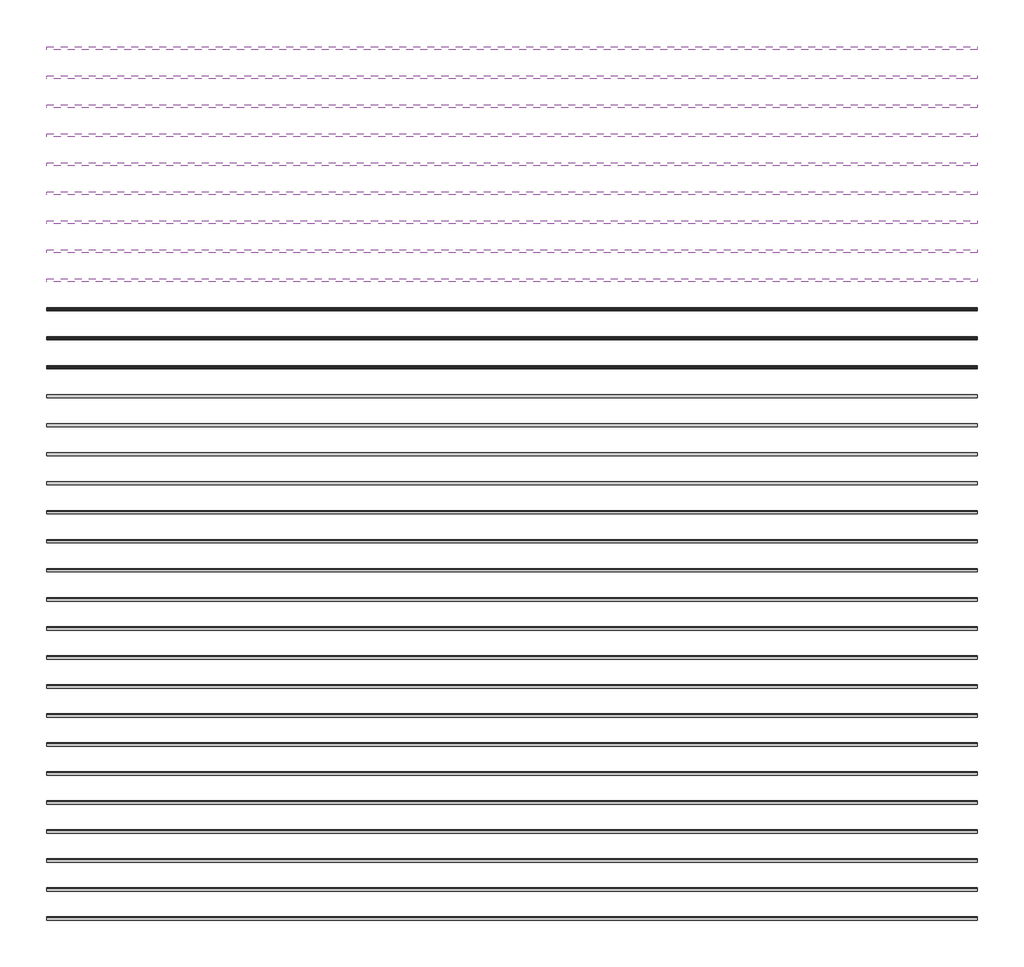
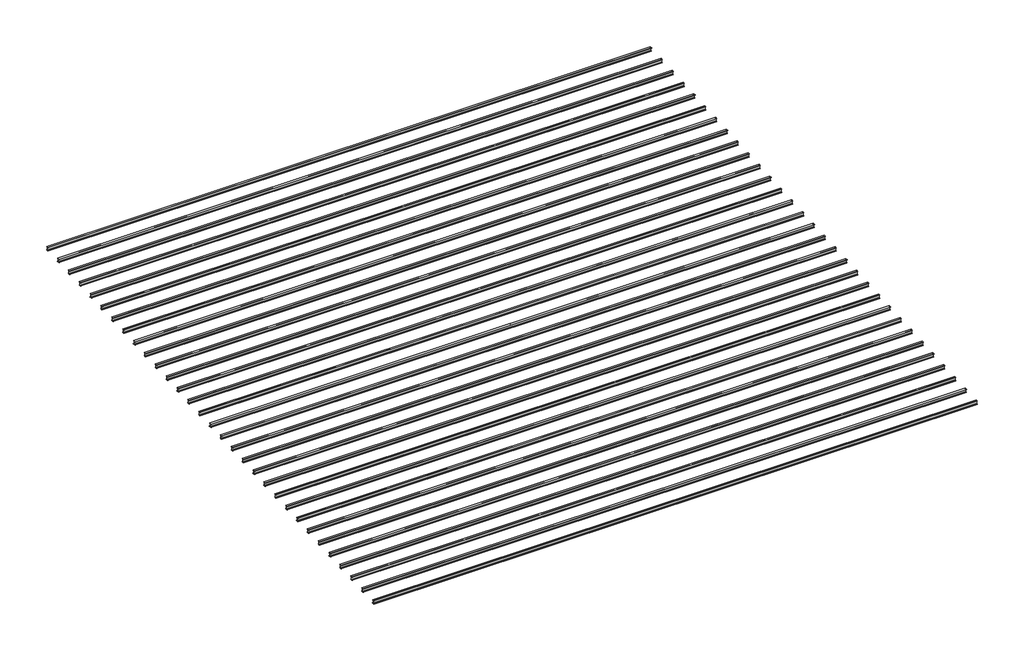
# One storey: 31 beams.
"""IFC4 building model written with IfcOpenShell, lengths in millimetres."""

from ifc_helpers import new_model, si_unit, origin, place, context, project, spatial, transform, mapped, element, save
from components import ipe120_4a8aa1c4

model = new_model("IFC4")

# Units and contexts
model_context = context("Model", 3, world=origin())
ifc_project = project(units=[si_unit("LENGTHUNIT", "METRE", prefix="MILLI")], contexts=[model_context])

# Site, building, storey
site = spatial("IfcSite", under=ifc_project)
building = spatial("IfcBuilding", under=site)
storey = spatial("IfcBuildingStorey", under=building, Name="Decke über 1.OG", Elevation=7500.0)

# Beams
placement = place(None, origin())
ipe120_shape = ipe120_4a8aa1c4(model_context)
element("IfcBeam", 1, ObjectType="IPE-Balken : IPE120", at=placement, inside=storey, context=model_context, shape_type="MappedRepresentation", body=[
    mapped(ipe120_shape, transform((258.1720523, 9586.331754, 9045.2702929), x_axis=(1.0, 0.0, 0.0), y_axis=(0.0, 0.9984603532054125, 0.05547001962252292), z_axis=(0.0, -0.05547001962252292, 0.9984603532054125))),
])
element("IfcBeam", 2, ObjectType="IPE-Balken : IPE120", at=placement, inside=storey, context=model_context, shape_type="MappedRepresentation", body=[
    mapped(ipe120_shape, transform((258.1720523, 8962.2940332, 9010.6015306), x_axis=(1.0, 0.0, 0.0), y_axis=(0.0, 0.9984603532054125, 0.05547001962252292), z_axis=(0.0, -0.05547001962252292, 0.9984603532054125))),
])
element("IfcBeam", 3, ObjectType="IPE-Balken : IPE120", at=placement, inside=storey, context=model_context, shape_type="MappedRepresentation", body=[
    mapped(ipe120_shape, transform((258.1720523, 8338.2563125, 8975.9327684), x_axis=(1.0, 0.0, 0.0), y_axis=(0.0, 0.9984603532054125, 0.05547001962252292), z_axis=(0.0, -0.05547001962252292, 0.9984603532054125))),
])
element("IfcBeam", 4, ObjectType="IPE-Balken : IPE120", at=placement, inside=storey, context=model_context, shape_type="MappedRepresentation", body=[
    mapped(ipe120_shape, transform((258.1720523, 7714.2185917, 8941.2640061), x_axis=(1.0, 0.0, 0.0), y_axis=(0.0, 0.9984603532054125, 0.05547001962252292), z_axis=(0.0, -0.05547001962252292, 0.9984603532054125))),
])
element("IfcBeam", 5, ObjectType="IPE-Balken : IPE120", at=placement, inside=storey, context=model_context, shape_type="MappedRepresentation", body=[
    mapped(ipe120_shape, transform((258.1720523, 7090.1808709, 8906.5952438), x_axis=(1.0, 0.0, 0.0), y_axis=(0.0, 0.9984603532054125, 0.05547001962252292), z_axis=(0.0, -0.05547001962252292, 0.9984603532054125))),
])
element("IfcBeam", 6, ObjectType="IPE-Balken : IPE120", at=placement, inside=storey, context=model_context, shape_type="MappedRepresentation", body=[
    mapped(ipe120_shape, transform((258.1720523, 6466.1431502, 8871.9264816), x_axis=(1.0, 0.0, 0.0), y_axis=(0.0, 0.9984603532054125, 0.05547001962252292), z_axis=(0.0, -0.05547001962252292, 0.9984603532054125))),
])
element("IfcBeam", 7, ObjectType="IPE-Balken : IPE120", at=placement, inside=storey, context=model_context, shape_type="MappedRepresentation", body=[
    mapped(ipe120_shape, transform((258.1720523, 5842.1054294, 8837.2577193), x_axis=(1.0, 0.0, 0.0), y_axis=(0.0, 0.9984603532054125, 0.05547001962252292), z_axis=(0.0, -0.05547001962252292, 0.9984603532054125))),
])
element("IfcBeam", 8, ObjectType="IPE-Balken : IPE120", at=placement, inside=storey, context=model_context, shape_type="MappedRepresentation", body=[
    mapped(ipe120_shape, transform((258.1720523, 5218.0677087, 8802.588957), x_axis=(1.0, 0.0, 0.0), y_axis=(0.0, 0.9984603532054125, 0.05547001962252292), z_axis=(0.0, -0.05547001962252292, 0.9984603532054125))),
])
element("IfcBeam", 9, ObjectType="IPE-Balken : IPE120", at=placement, inside=storey, context=model_context, shape_type="MappedRepresentation", body=[
    mapped(ipe120_shape, transform((258.1720523, 4594.0299879, 8767.9201948), x_axis=(1.0, 0.0, 0.0), y_axis=(0.0, 0.9984603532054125, 0.05547001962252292), z_axis=(0.0, -0.05547001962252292, 0.9984603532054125))),
])
element("IfcBeam", 10, ObjectType="IPE-Balken : IPE120", at=placement, inside=storey, context=model_context, shape_type="MappedRepresentation", body=[
    mapped(ipe120_shape, transform((258.1720523, 3969.9922672, 8733.2514325), x_axis=(1.0, 0.0, 0.0), y_axis=(0.0, 0.9984603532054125, 0.05547001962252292), z_axis=(0.0, -0.05547001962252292, 0.9984603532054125))),
])
element("IfcBeam", 11, ObjectType="IPE-Balken : IPE120", at=placement, inside=storey, context=model_context, shape_type="MappedRepresentation", body=[
    mapped(ipe120_shape, transform((258.1720523, 3345.9545464, 8698.5826702), x_axis=(1.0, 0.0, 0.0), y_axis=(0.0, 0.9984603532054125, 0.05547001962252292), z_axis=(0.0, -0.05547001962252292, 0.9984603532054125))),
])
element("IfcBeam", 12, ObjectType="IPE-Balken : IPE120", at=placement, inside=storey, context=model_context, shape_type="MappedRepresentation", body=[
    mapped(ipe120_shape, transform((258.1720523, 2721.9168257, 8663.913908), x_axis=(1.0, 0.0, 0.0), y_axis=(0.0, 0.9984603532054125, 0.05547001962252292), z_axis=(0.0, -0.05547001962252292, 0.9984603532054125))),
])
element("IfcBeam", 13, ObjectType="IPE-Balken : IPE120", at=placement, inside=storey, context=model_context, shape_type="MappedRepresentation", body=[
    mapped(ipe120_shape, transform((258.1720523, 2097.8791049, 8629.2451457), x_axis=(1.0, 0.0, 0.0), y_axis=(0.0, 0.9984603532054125, 0.05547001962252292), z_axis=(0.0, -0.05547001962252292, 0.9984603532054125))),
])
element("IfcBeam", 14, ObjectType="IPE-Balken : IPE120", at=placement, inside=storey, context=model_context, shape_type="MappedRepresentation", body=[
    mapped(ipe120_shape, transform((258.1720523, 1473.8413842, 8594.5763835), x_axis=(1.0, 0.0, 0.0), y_axis=(0.0, 0.9984603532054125, 0.05547001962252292), z_axis=(0.0, -0.05547001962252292, 0.9984603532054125))),
])
element("IfcBeam", 15, ObjectType="IPE-Balken : IPE120", at=placement, inside=storey, context=model_context, shape_type="MappedRepresentation", body=[
    mapped(ipe120_shape, transform((258.1720523, 849.8036634, 8559.9076212), x_axis=(1.0, 0.0, 0.0), y_axis=(0.0, 0.9984603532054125, 0.05547001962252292), z_axis=(0.0, -0.05547001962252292, 0.9984603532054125))),
])
element("IfcBeam", 16, ObjectType="IPE-Balken : IPE120", at=placement, inside=storey, context=model_context, shape_type="MappedRepresentation", body=[
    mapped(ipe120_shape, transform((258.1720523, 225.7659427, 8525.2388589), x_axis=(1.0, 0.0, 0.0), y_axis=(0.0, 0.9984603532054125, 0.05547001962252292), z_axis=(0.0, -0.05547001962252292, 0.9984603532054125))),
])
element("IfcBeam", 17, ObjectType="IPE-Balken : IPE120", at=placement, inside=storey, context=model_context, shape_type="MappedRepresentation", body=[
    mapped(ipe120_shape, transform((258.1720523, -398.2717781, 8490.5700967), x_axis=(1.0, 0.0, 0.0), y_axis=(0.0, 0.9984603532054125, 0.05547001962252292), z_axis=(0.0, -0.05547001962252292, 0.9984603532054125))),
])
element("IfcBeam", 18, ObjectType="IPE-Balken : IPE120", at=placement, inside=storey, context=model_context, shape_type="MappedRepresentation", body=[
    mapped(ipe120_shape, transform((258.1720523, -1022.3094988, 8455.9013344), x_axis=(1.0, 0.0, 0.0), y_axis=(0.0, 0.9984603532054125, 0.05547001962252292), z_axis=(0.0, -0.05547001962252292, 0.9984603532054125))),
])
element("IfcBeam", 19, ObjectType="IPE-Balken : IPE120", at=placement, inside=storey, context=model_context, shape_type="MappedRepresentation", body=[
    mapped(ipe120_shape, transform((258.1720523, -1646.3472196, 8421.2325721), x_axis=(1.0, 0.0, 0.0), y_axis=(0.0, 0.9984603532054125, 0.05547001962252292), z_axis=(0.0, -0.05547001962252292, 0.9984603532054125))),
])
element("IfcBeam", 20, ObjectType="IPE-Balken : IPE120", at=placement, inside=storey, context=model_context, shape_type="MappedRepresentation", body=[
    mapped(ipe120_shape, transform((258.1720523, -2270.3849404, 8386.5638099), x_axis=(1.0, 0.0, 0.0), y_axis=(0.0, 0.9984603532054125, 0.05547001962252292), z_axis=(0.0, -0.05547001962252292, 0.9984603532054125))),
])
element("IfcBeam", 21, ObjectType="IPE-Balken : IPE120", at=placement, inside=storey, context=model_context, shape_type="MappedRepresentation", body=[
    mapped(ipe120_shape, transform((258.1720523, -2894.4226611, 8351.8950476), x_axis=(1.0, 0.0, 0.0), y_axis=(0.0, 0.9984603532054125, 0.05547001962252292), z_axis=(0.0, -0.05547001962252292, 0.9984603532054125))),
])
element("IfcBeam", 22, ObjectType="IPE-Balken : IPE120", at=placement, inside=storey, context=model_context, shape_type="MappedRepresentation", body=[
    mapped(ipe120_shape, transform((258.1720523, -3518.4603819, 8317.2262853), x_axis=(1.0, 0.0, 0.0), y_axis=(0.0, 0.9984603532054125, 0.05547001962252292), z_axis=(0.0, -0.05547001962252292, 0.9984603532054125))),
])
element("IfcBeam", 23, ObjectType="IPE-Balken : IPE120", at=placement, inside=storey, context=model_context, shape_type="MappedRepresentation", body=[
    mapped(ipe120_shape, transform((258.1720523, -4142.4981026, 8282.5575231), x_axis=(1.0, 0.0, 0.0), y_axis=(0.0, 0.9984603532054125, 0.05547001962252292), z_axis=(0.0, -0.05547001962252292, 0.9984603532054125))),
])
element("IfcBeam", 24, ObjectType="IPE-Balken : IPE120", at=placement, inside=storey, context=model_context, shape_type="MappedRepresentation", body=[
    mapped(ipe120_shape, transform((258.1720523, -4766.5358234, 8247.8887608), x_axis=(1.0, 0.0, 0.0), y_axis=(0.0, 0.9984603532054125, 0.05547001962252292), z_axis=(0.0, -0.05547001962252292, 0.9984603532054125))),
])
element("IfcBeam", 25, ObjectType="IPE-Balken : IPE120", at=placement, inside=storey, context=model_context, shape_type="MappedRepresentation", body=[
    mapped(ipe120_shape, transform((258.1720523, -5390.5735441, 8213.2199986), x_axis=(1.0, 0.0, 0.0), y_axis=(0.0, 0.9984603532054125, 0.05547001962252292), z_axis=(0.0, -0.05547001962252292, 0.9984603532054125))),
])
element("IfcBeam", 26, ObjectType="IPE-Balken : IPE120", at=placement, inside=storey, context=model_context, shape_type="MappedRepresentation", body=[
    mapped(ipe120_shape, transform((258.1720523, -6014.6112649, 8178.5512363), x_axis=(1.0, 0.0, 0.0), y_axis=(0.0, 0.9984603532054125, 0.05547001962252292), z_axis=(0.0, -0.05547001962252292, 0.9984603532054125))),
])
element("IfcBeam", 27, ObjectType="IPE-Balken : IPE120", at=placement, inside=storey, context=model_context, shape_type="MappedRepresentation", body=[
    mapped(ipe120_shape, transform((258.1720523, -6638.6489856, 8143.882474), x_axis=(1.0, 0.0, 0.0), y_axis=(0.0, 0.9984603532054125, 0.05547001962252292), z_axis=(0.0, -0.05547001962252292, 0.9984603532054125))),
])
element("IfcBeam", 28, ObjectType="IPE-Balken : IPE120", at=placement, inside=storey, context=model_context, shape_type="MappedRepresentation", body=[
    mapped(ipe120_shape, transform((258.1720523, -7262.6867064, 8109.2137118), x_axis=(1.0, 0.0, 0.0), y_axis=(0.0, 0.9984603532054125, 0.05547001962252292), z_axis=(0.0, -0.05547001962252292, 0.9984603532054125))),
])
element("IfcBeam", 29, ObjectType="IPE-Balken : IPE120", at=placement, inside=storey, context=model_context, shape_type="MappedRepresentation", body=[
    mapped(ipe120_shape, transform((258.1720523, -7886.7244271, 8074.5449495), x_axis=(1.0, 0.0, 0.0), y_axis=(0.0, 0.9984603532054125, 0.05547001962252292), z_axis=(0.0, -0.05547001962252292, 0.9984603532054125))),
])
element("IfcBeam", 30, ObjectType="IPE-Balken : IPE120", at=placement, inside=storey, context=model_context, shape_type="MappedRepresentation", body=[
    mapped(ipe120_shape, transform((258.1720523, -8510.7621479, 8039.8761872), x_axis=(1.0, 0.0, 0.0), y_axis=(0.0, 0.9984603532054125, 0.05547001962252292), z_axis=(0.0, -0.05547001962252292, 0.9984603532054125))),
])
element("IfcBeam", 31, ObjectType="IPE-Balken : IPE120", at=placement, inside=storey, context=model_context, shape_type="MappedRepresentation", body=[
    mapped(ipe120_shape, transform((258.1720523, -9134.7998686, 8005.207425), x_axis=(1.0, 0.0, 0.0), y_axis=(0.0, 0.9984603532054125, 0.05547001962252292), z_axis=(0.0, -0.05547001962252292, 0.9984603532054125))),
])

save(model, "model.ifc")
